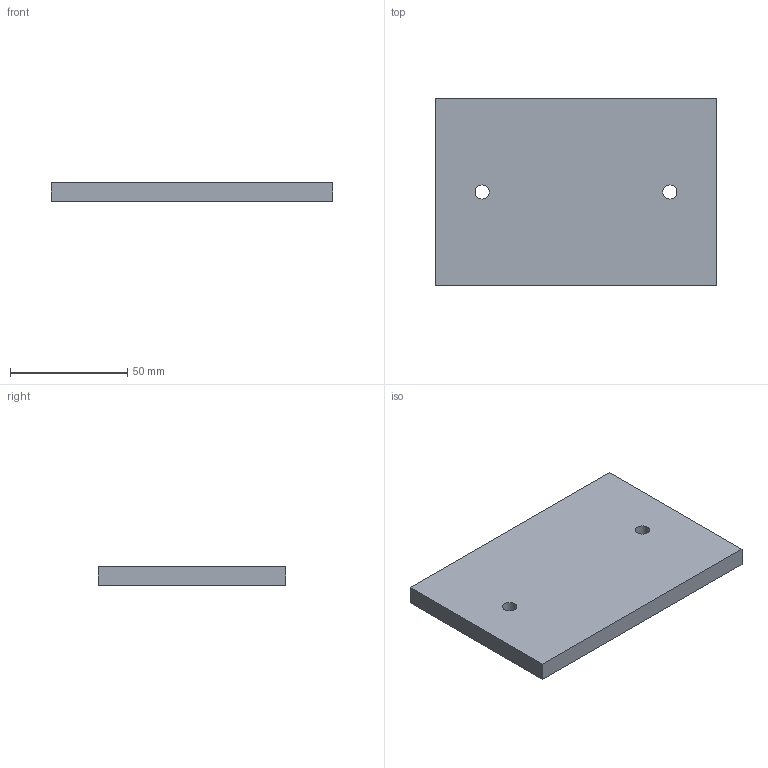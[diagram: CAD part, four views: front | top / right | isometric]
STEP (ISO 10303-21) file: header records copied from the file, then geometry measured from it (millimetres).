
FILE_DESCRIPTION(('Open CASCADE Model'),'2;1');
FILE_NAME('Open CASCADE Shape Model','2026-10-28T05:16:18',('Author'),( 'Open CASCADE'),'Open CASCADE STEP processor 7.8','Open CASCADE 7.8' ,'Unknown');
FILE_SCHEMA(('AUTOMOTIVE_DESIGN { 1 0 10303 214 1 1 1 1 }'));
Length unit declared in the file: millimetre
Products named in the file (1): Open CASCADE STEP translator 7.8 6
Bounding box: 120 x 80 x 8 mm (x, y, z)
Volume: 76343.1 mm3; surface area: 22588.9 mm2
Topology: 1 solids, 1 shells, 8 faces, 18 edges, 12 vertices
Faces by surface type: plane 6, cylinder 2
Full cylindrical faces by diameter (mm): 6.03 x2
Entity records: 478 total; most frequent: DIRECTION 76, CARTESIAN_POINT 75, LINE 46, VECTOR 46, ORIENTED_EDGE 36, PCURVE 36, DEFINITIONAL_REPRESENTATION 36, EDGE_CURVE 18
